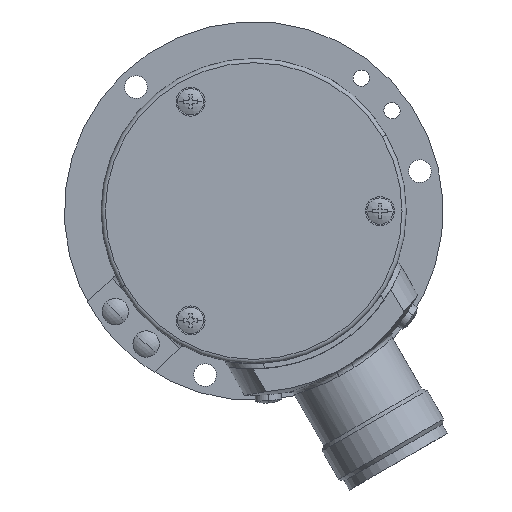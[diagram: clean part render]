
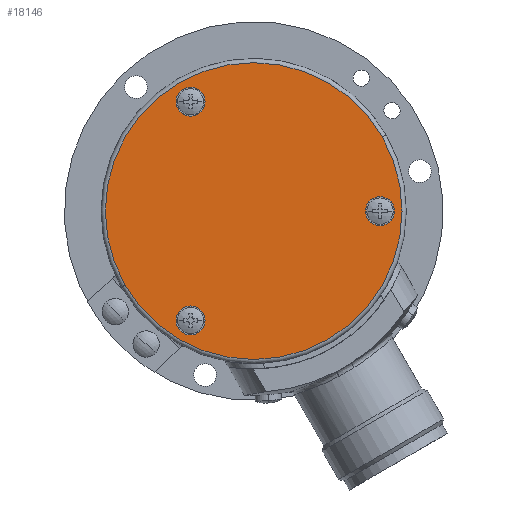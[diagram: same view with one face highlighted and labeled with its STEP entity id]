
A CAD part, left-side view. The second image highlights one B-rep face of the part: STEP entity #18146.
In plain terms, the highlighted planar face has unit normal (-1, 0, 0).
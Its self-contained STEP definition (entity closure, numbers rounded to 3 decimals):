
#2922 = DIRECTION ( 'NONE',  ( 0., 0.866, -0.5 ) ) ;
#2923 = DIRECTION ( 'NONE',  ( -1., 0., 0. ) ) ;
#2924 = CARTESIAN_POINT ( 'NONE',  ( -4., -24., 0. ) ) ;
#2925 = AXIS2_PLACEMENT_3D ( 'NONE', #2924, #2923, #2922 ) ;
#2926 = CIRCLE ( 'NONE', #2925, 2.75 ) ;
#2953 = DIRECTION ( 'NONE',  ( 0., 0.866, -0.5 ) ) ;
#2954 = DIRECTION ( 'NONE',  ( -1., 0., 0. ) ) ;
#2955 = AXIS2_PLACEMENT_3D ( 'NONE', #2962, #2954, #2953 ) ;
#2956 = CIRCLE ( 'NONE', #2955, 2.75 ) ;
#2962 = CARTESIAN_POINT ( 'NONE',  ( -4., 12., -20.785 ) ) ;
#2970 = DIRECTION ( 'NONE',  ( 0., -0.866, 0.5 ) ) ;
#2971 = DIRECTION ( 'NONE',  ( 1., 0., 0. ) ) ;
#2972 = CARTESIAN_POINT ( 'NONE',  ( -4., -14.5, -25.115 ) ) ;
#2974 = AXIS2_PLACEMENT_3D ( 'NONE', #2972, #2971, #2970 ) ;
#2975 = PLANE ( 'NONE',  #2974 ) ;
#2976 = FACE_OUTER_BOUND ( 'NONE', #18121, .T. ) ;
#2977 = FACE_BOUND ( 'NONE', #18115, .T. ) ;
#2978 = FACE_BOUND ( 'NONE', #18262, .T. ) ;
#2979 = FACE_BOUND ( 'NONE', #18125, .T. ) ;
#3062 = DIRECTION ( 'NONE',  ( 0., -0.866, 0.5 ) ) ;
#3063 = DIRECTION ( 'NONE',  ( -1., 0., 0. ) ) ;
#3064 = CARTESIAN_POINT ( 'NONE',  ( -4., 0., 0. ) ) ;
#3065 = AXIS2_PLACEMENT_3D ( 'NONE', #3064, #3063, #3062 ) ;
#3066 = CIRCLE ( 'NONE', #3065, 28.2 ) ;
#3254 = DIRECTION ( 'NONE',  ( 0., 0.866, -0.5 ) ) ;
#3255 = DIRECTION ( 'NONE',  ( -1., 0., 0. ) ) ;
#3256 = CARTESIAN_POINT ( 'NONE',  ( -4., 12., 20.785 ) ) ;
#3257 = AXIS2_PLACEMENT_3D ( 'NONE', #3256, #3255, #3254 ) ;
#3262 = CIRCLE ( 'NONE', #3257, 2.75 ) ;
#5140 = CARTESIAN_POINT ( 'NONE',  ( -4., -24.422, 14.1 ) ) ;
#5141 = DIRECTION ( 'NONE',  ( 0., -0.866, 0.5 ) ) ;
#5142 = DIRECTION ( 'NONE',  ( -1., 0., 0. ) ) ;
#5143 = CARTESIAN_POINT ( 'NONE',  ( -4., 0., 0. ) ) ;
#5144 = AXIS2_PLACEMENT_3D ( 'NONE', #5143, #5142, #5141 ) ;
#5145 = CIRCLE ( 'NONE', #5144, 28.2 ) ;
#5146 = CARTESIAN_POINT ( 'NONE',  ( -4., 24.422, -14.1 ) ) ;
#8252 = CIRCLE ( 'NONE', #8307, 2.75 ) ;
#8260 = CARTESIAN_POINT ( 'NONE',  ( -4., -26.382, 1.375 ) ) ;
#8303 = CARTESIAN_POINT ( 'NONE',  ( -4., -21.618, -1.375 ) ) ;
#8304 = DIRECTION ( 'NONE',  ( 0., 0.866, -0.5 ) ) ;
#8305 = DIRECTION ( 'NONE',  ( -1., 0., 0. ) ) ;
#8306 = CARTESIAN_POINT ( 'NONE',  ( -4., -24., 0. ) ) ;
#8307 = AXIS2_PLACEMENT_3D ( 'NONE', #8306, #8305, #8304 ) ;
#8404 = DIRECTION ( 'NONE',  ( 0., 0.866, -0.5 ) ) ;
#8405 = DIRECTION ( 'NONE',  ( -1., 0., 0. ) ) ;
#8406 = CARTESIAN_POINT ( 'NONE',  ( -4., 12., 20.785 ) ) ;
#8407 = AXIS2_PLACEMENT_3D ( 'NONE', #8406, #8405, #8404 ) ;
#8408 = CIRCLE ( 'NONE', #8407, 2.75 ) ;
#8457 = CARTESIAN_POINT ( 'NONE',  ( -4., 14.382, 19.41 ) ) ;
#8458 = CARTESIAN_POINT ( 'NONE',  ( -4., 9.618, 22.16 ) ) ;
#8481 = CARTESIAN_POINT ( 'NONE',  ( -4., 9.618, -19.41 ) ) ;
#8486 = CARTESIAN_POINT ( 'NONE',  ( -4., 14.382, -22.16 ) ) ;
#8487 = DIRECTION ( 'NONE',  ( 0., 0.866, -0.5 ) ) ;
#8488 = DIRECTION ( 'NONE',  ( -1., 0., 0. ) ) ;
#8489 = CARTESIAN_POINT ( 'NONE',  ( -4., 12., -20.785 ) ) ;
#8490 = AXIS2_PLACEMENT_3D ( 'NONE', #8489, #8488, #8487 ) ;
#8491 = CIRCLE ( 'NONE', #8490, 2.75 ) ;
#18035 = ORIENTED_EDGE ( 'NONE', *, *, #22066, .F. ) ;
#18064 = EDGE_CURVE ( 'NONE', #22028, #22019, #2926, .T. ) ;
#18108 = ORIENTED_EDGE ( 'NONE', *, *, #22110, .F. ) ;
#18110 = ORIENTED_EDGE ( 'NONE', *, *, #18263, .F. ) ;
#18112 = EDGE_CURVE ( 'NONE', #22112, #22120, #2956, .T. ) ;
#18115 = EDGE_LOOP ( 'NONE', ( #18110, #18035 ) ) ;
#18116 = ORIENTED_EDGE ( 'NONE', *, *, #22026, .F. ) ;
#18118 = ORIENTED_EDGE ( 'NONE', *, *, #18112, .F. ) ;
#18121 = EDGE_LOOP ( 'NONE', ( #18260, #18256 ) ) ;
#18125 = EDGE_LOOP ( 'NONE', ( #18148, #18116 ) ) ;
#18146 = ADVANCED_FACE ( 'NONE', ( #2979, #2978, #2977, #2976 ), #2975, .F. ) ;
#18148 = ORIENTED_EDGE ( 'NONE', *, *, #18064, .F. ) ;
#18164 = EDGE_CURVE ( 'NONE', #19281, #19277, #3066, .T. ) ;
#18256 = ORIENTED_EDGE ( 'NONE', *, *, #19278, .T. ) ;
#18260 = ORIENTED_EDGE ( 'NONE', *, *, #18164, .T. ) ;
#18262 = EDGE_LOOP ( 'NONE', ( #18118, #18108 ) ) ;
#18263 = EDGE_CURVE ( 'NONE', #22081, #22080, #3262, .T. ) ;
#19277 = VERTEX_POINT ( 'NONE', #5146 ) ;
#19278 = EDGE_CURVE ( 'NONE', #19277, #19281, #5145, .T. ) ;
#19281 = VERTEX_POINT ( 'NONE', #5140 ) ;
#22019 = VERTEX_POINT ( 'NONE', #8260 ) ;
#22026 = EDGE_CURVE ( 'NONE', #22019, #22028, #8252, .T. ) ;
#22028 = VERTEX_POINT ( 'NONE', #8303 ) ;
#22066 = EDGE_CURVE ( 'NONE', #22080, #22081, #8408, .T. ) ;
#22080 = VERTEX_POINT ( 'NONE', #8458 ) ;
#22081 = VERTEX_POINT ( 'NONE', #8457 ) ;
#22110 = EDGE_CURVE ( 'NONE', #22120, #22112, #8491, .T. ) ;
#22112 = VERTEX_POINT ( 'NONE', #8486 ) ;
#22120 = VERTEX_POINT ( 'NONE', #8481 ) ;
